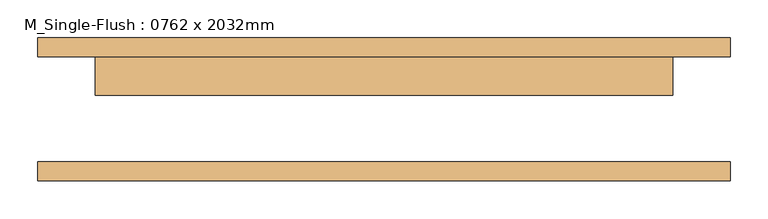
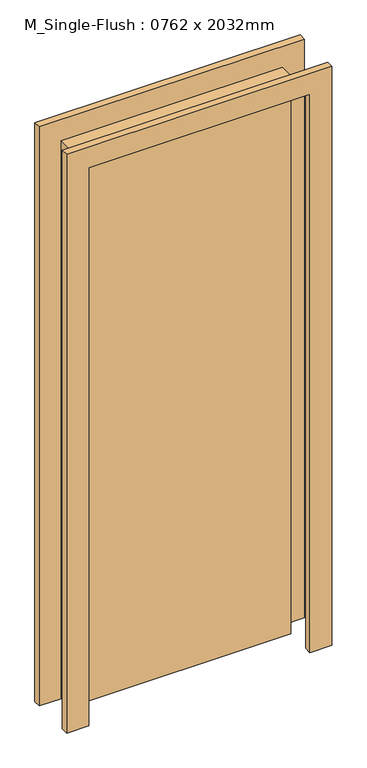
"""IFC4 building model written with IfcOpenShell, lengths in millimetres: door geometry, M_Single-Flush : 0762 x 2032mm."""

import ifcopenshell
import ifcopenshell.guid

model = None  # the IFC model being written
_history = None  # IfcOwnerHistory: only IFC2X3 demands one
_inside = {}  # id of a spatial element -> (the spatial element, [elements in it])
_under = {}  # id of a project, library or spatial element -> (it, [spatial elements below it])
_declared = {}  # id of a project -> (the project, [libraries it declares])
_typed = {}  # id of a type object -> (the type object, [elements of that type])
_made_of = {}  # id of a material, layer set ... -> (it, [elements and type objects made of it])


def new_model(schema):
    """Start an empty IFC model of exactly this schema.

    Asked for "IFC4X3", IfcOpenShell would pick the latest addendum, in which some entities
    have other attributes; the version numbers below select the first issue.
    IFC2X3 requires an IfcOwnerHistory on every rooted entity: one is made here for all.
    """
    global model, _history
    if schema == "IFC4X3":
        model = ifcopenshell.file(schema_version=(4, 3, 0, 0))
    else:
        model = ifcopenshell.file(schema=schema)
    _inside.clear()
    _under.clear()
    _declared.clear()
    _typed.clear()
    _made_of.clear()
    _history = None
    if model.schema == "IFC2X3":
        org = make("IfcOrganization", Name="unknown")
        user = make(
            "IfcPersonAndOrganization",
            ThePerson=make("IfcPerson", FamilyName="unknown"),
            TheOrganization=org,
        )
        app = make(
            "IfcApplication",
            ApplicationDeveloper=org,
            Version="unknown",
            ApplicationFullName="unknown",
            ApplicationIdentifier="unknown",
        )
        _history = make(
            "IfcOwnerHistory",
            OwningUser=user,
            OwningApplication=app,
            ChangeAction="ADDED",
            CreationDate=0,
        )
    return model


def make(cls, **values):
    """One entity of the class cls with the attributes given. An attribute that is None is left unset."""
    return model.create_entity(
        cls, **{name: value for name, value in values.items() if value is not None}
    )


def rooted(cls, **values):
    """An entity with a GlobalId (a new one), such as an element, a storey or a relation."""
    return make(cls, GlobalId=ifcopenshell.guid.new(), OwnerHistory=_history, **values)


def si_unit(unit_type, name, prefix=None):
    """IfcSIUnit, for example si_unit("LENGTHUNIT", "METRE", prefix="MILLI")."""
    return make("IfcSIUnit", UnitType=unit_type, Prefix=prefix, Name=name)


def assignment(units):
    """IfcUnitAssignment: the units of a project."""
    return None if units is None else make("IfcUnitAssignment", Units=units)


def point(xyz):
    """IfcCartesianPoint."""
    return None if xyz is None else make("IfcCartesianPoint", Coordinates=xyz)


def direction(xyz):
    """IfcDirection."""
    return None if xyz is None else make("IfcDirection", DirectionRatios=xyz)


def frame(location, z_axis=None, x_axis=None):
    """IfcAxis2Placement3D, a coordinate frame: its origin and axes. An axis left out is left unset."""
    return make(
        "IfcAxis2Placement3D",
        Location=point(location),
        Axis=direction(z_axis),
        RefDirection=direction(x_axis),
    )


def origin():
    """The frame at (0, 0, 0) with its axes left unset."""
    return frame((0.0, 0.0, 0.0))


def origin_with_axes():
    """The frame at (0, 0, 0) with the z axis (0, 0, 1) and the x axis (1, 0, 0) written out."""
    return frame((0.0, 0.0, 0.0), z_axis=(0.0, 0.0, 1.0), x_axis=(1.0, 0.0, 0.0))


def place(relative_to, where):
    """IfcLocalPlacement: puts the frame where relative to a parent placement (None: the world)."""
    return make(
        "IfcLocalPlacement", PlacementRelTo=relative_to, RelativePlacement=where
    )


def context(
    kind, dimensions, precision=None, world=None, true_north=None, identifier=None
):
    """IfcGeometricRepresentationContext, for example the 3D "Model" context."""
    return make(
        "IfcGeometricRepresentationContext",
        ContextIdentifier=identifier,
        ContextType=kind,
        CoordinateSpaceDimension=dimensions,
        Precision=precision,
        WorldCoordinateSystem=world,
        TrueNorth=true_north,
    )


def project(units=None, contexts=None):
    """IfcProject with its units and contexts."""
    return rooted(
        "IfcProject",
        Name="project",
        RepresentationContexts=contexts,
        UnitsInContext=assignment(units),
    )


def spatial(cls, under=None, at=None, **own):
    """A site, building, storey or space (cls), placed at a placement, below another one or the project."""
    s = rooted(cls, ObjectPlacement=at, **own)
    if under is not None:
        _under.setdefault(under.id(), (under, []))[1].append(s)
    return s


def polyline(points):
    """IfcPolyline through the points."""
    return make("IfcPolyline", Points=[point(p) for p in points])


def outline(outer, holes=None, kind="AREA"):
    """IfcArbitraryClosedProfileDef: a profile drawn as a closed curve; with holes, ...WithVoids."""
    if holes is None:
        return make("IfcArbitraryClosedProfileDef", ProfileType=kind, OuterCurve=outer)
    return make(
        "IfcArbitraryProfileDefWithVoids",
        ProfileType=kind,
        OuterCurve=outer,
        InnerCurves=holes,
    )


def extrude(swept, where, along, depth):
    """IfcExtrudedAreaSolid: the profile swept, set in the frame where, extruded along a direction by depth."""
    return make(
        "IfcExtrudedAreaSolid",
        SweptArea=swept,
        Position=where,
        ExtrudedDirection=direction(along),
        Depth=depth,
    )


def shape(context_of_items, identifier, shape_type, items):
    """IfcShapeRepresentation: the items that make up one representation, for example the "Body"."""
    return make(
        "IfcShapeRepresentation",
        ContextOfItems=context_of_items,
        RepresentationIdentifier=identifier,
        RepresentationType=shape_type,
        Items=items,
    )


def source(mapping_origin, context_of_items, identifier, shape_type, items):
    """IfcRepresentationMap: a shape defined once, which mapped items show again and again."""
    return make(
        "IfcRepresentationMap",
        MappingOrigin=mapping_origin,
        MappedRepresentation=shape(context_of_items, identifier, shape_type, items),
    )


def transform(
    local_origin,
    x_axis=None,
    y_axis=None,
    z_axis=None,
    scale=None,
    scale2=None,
    scale3=None,
    uniform=True,
):
    """IfcCartesianTransformationOperator3D, or its non-uniform kind. x_axis, y_axis, z_axis: its Axis1, 2, 3."""
    if uniform:
        return make(
            "IfcCartesianTransformationOperator3D",
            Axis1=direction(x_axis),
            Axis2=direction(y_axis),
            LocalOrigin=point(local_origin),
            Scale=scale,
            Axis3=direction(z_axis),
        )
    return make(
        "IfcCartesianTransformationOperator3DnonUniform",
        Axis1=direction(x_axis),
        Axis2=direction(y_axis),
        LocalOrigin=point(local_origin),
        Scale=scale,
        Axis3=direction(z_axis),
        Scale2=scale2,
        Scale3=scale3,
    )


def mapped(mapping_source, mapping_target):
    """IfcMappedItem: shows the shape of a source again, moved by a transform."""
    return make(
        "IfcMappedItem", MappingSource=mapping_source, MappingTarget=mapping_target
    )


def made_of(thing, what):
    """Note that an element or type object is made of a material, layer set ...; save() writes the relation."""
    if what is not None:
        _made_of.setdefault(what.id(), (what, []))[1].append(thing)
    return thing


def element(
    cls,
    number,
    at=None,
    inside=None,
    cuts=None,
    type_object=None,
    material=None,
    context=None,
    identifier="Body",
    shape_type=None,
    held_by="IfcProductDefinitionShape",
    body=None,
    shapes=None,
    **own,
):
    """One element of the class cls, such as IfcWall. Its Tag is "e" and its number.

    at: its placement. inside: the storey or other place that contains it. cuts: it is an
    opening in that element (IfcRelVoidsElement). A single representation is given by context,
    identifier, shape_type and body (its items); several are given by shapes. held_by: the class
    of the entity that holds the representations. save() writes the other relations.
    """
    e = rooted(cls, Tag="e%d" % number, ObjectPlacement=at, **own)
    if body is not None:
        shapes = [shape(context, identifier, shape_type, body)]
    if shapes is not None:
        e.Representation = make(held_by, Representations=shapes)
    if inside is not None:
        _inside.setdefault(inside.id(), (inside, []))[1].append(e)
    if cuts is not None:
        rooted(
            "IfcRelVoidsElement", RelatingBuildingElement=cuts, RelatedOpeningElement=e
        )
    if type_object is not None:
        _typed.setdefault(type_object.id(), (type_object, []))[1].append(e)
    return made_of(e, material)


def aggregate(whole, parts):
    """IfcRelAggregates: a whole, such as a stair, and the parts it consists of."""
    return rooted("IfcRelAggregates", RelatingObject=whole, RelatedObjects=parts)


def save(model, path):
    """Write the relations noted so far, then the file.

    IfcRelAggregates (storeys below a building ...), IfcRelContainedInSpatialStructure (elements
    in a storey), IfcRelDefinesByType, IfcRelAssociatesMaterial and IfcRelDeclares: one each for
    every whole, place, type object, material and project.
    """
    for whole, parts in _under.values():
        aggregate(whole, parts)
    for where, things in _inside.values():
        rooted(
            "IfcRelContainedInSpatialStructure",
            RelatedElements=things,
            RelatingStructure=where,
        )
    for kind, things in _typed.values():
        rooted("IfcRelDefinesByType", RelatedObjects=things, RelatingType=kind)
    for what, things in _made_of.values():
        rooted("IfcRelAssociatesMaterial", RelatedObjects=things, RelatingMaterial=what)
    for by, libraries in _declared.values():
        rooted("IfcRelDeclares", RelatingContext=by, RelatedDefinitions=libraries)
    model.write(path)


def m_single_flush_0762_x_2032mm_93de2473(model_context):
    return source(origin(), model_context, "Body", "SweptSolid", [
        extrude(outline(polyline([(2108.0, -457.0), (0.0, -457.0), (0.0, -381.0), (2032.0, -381.0), (2032.0, 381.0), (0.0, 381.0), (0.0, 457.0), (2108.0, 457.0), (2108.0, -457.0)])), frame((0.0, 69.25, 0.0), z_axis=(0.0, 1.0, 0.0), x_axis=(0.0, 0.0, 1.0)), (0.0, 0.0, 1.0), 25.0),
        extrude(outline(polyline([(2108.0, 457.0), (2108.0, -457.0), (0.0, -457.0), (0.0, -381.0), (2032.0, -381.0), (2032.0, 381.0), (0.0, 381.0), (0.0, 457.0), (2108.0, 457.0)])), frame((0.0, -94.25, 0.0), z_axis=(0.0, 1.0, 0.0), x_axis=(0.0, 0.0, 1.0)), (0.0, 0.0, 1.0), 25.0),
        extrude(outline(polyline([(381.0, 18.25), (-381.0, 18.25), (-381.0, 69.25), (381.0, 69.25), (381.0, 18.25)])), origin_with_axes(), (0.0, 0.0, 1.0), 2032.0),
    ])


if __name__ == "__main__":
    model = new_model("IFC4")
    model_context = context("Model", 3, world=origin())
    ifc_project = project(units=[si_unit("LENGTHUNIT", "METRE", prefix="MILLI")], contexts=[model_context])
    site = spatial("IfcSite", under=ifc_project)
    building = spatial("IfcBuilding", under=site)
    placement = place(None, origin())
    m_single_flush_0762_x_2032mm_shape = m_single_flush_0762_x_2032mm_93de2473(model_context)
    element("IfcDoor", 1, ObjectType="M_Single-Flush : 0762 x 2032mm", at=placement, inside=building, context=model_context, shape_type="MappedRepresentation", body=[
        mapped(m_single_flush_0762_x_2032mm_shape, transform((0.0, 0.0, 0.0), x_axis=(1.0, 0.0, 0.0), y_axis=(0.0, 1.0, 0.0), z_axis=(0.0, 0.0, 1.0))),
    ])
    save(model, "model.ifc")
